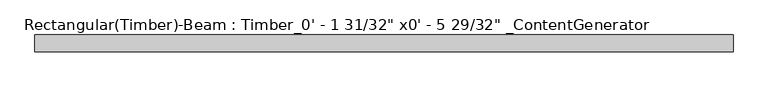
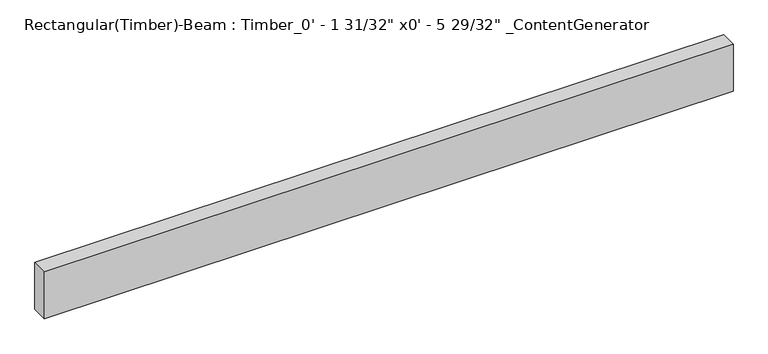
"""IFC4 building model written with IfcOpenShell, lengths in millimetres: beam geometry."""

from ifc_helpers import new_model, si_unit, frame, origin, place, context, project, spatial, polyline, outline, extrude, source, transform, mapped, element, save


def beam_0b2bfc08(model_context):
    return source(origin(), model_context, "Body", "SweptSolid", [
        extrude(outline(polyline([(1058.8625, 25.4), (1058.8625, -25.4), (-1058.8625, -25.4), (-1058.8625, 25.4), (1058.8625, 25.4)])), frame((0.0, 0.0, -76.2), z_axis=(0.0, 0.0, 1.0), x_axis=(1.0, 0.0, 0.0)), (0.0, 0.0, 1.0), 152.4),
    ])


if __name__ == "__main__":
    model = new_model("IFC4")
    model_context = context("Model", 3, world=origin())
    ifc_project = project(units=[si_unit("LENGTHUNIT", "METRE", prefix="MILLI")], contexts=[model_context])
    site = spatial("IfcSite", under=ifc_project)
    building = spatial("IfcBuilding", under=site)
    placement = place(None, origin())
    beam_shape = beam_0b2bfc08(model_context)
    element("IfcBeam", 1, ObjectType="Rectangular(Timber)-Beam : Timber_0' - 1 31/32\" x0' - 5 29/32\" _ContentGenerator", at=placement, inside=building, context=model_context, shape_type="MappedRepresentation", body=[
        mapped(beam_shape, transform((0.0, 0.0, 0.0), x_axis=(1.0, 0.0, 0.0), y_axis=(0.0, 1.0, 0.0), z_axis=(0.0, 0.0, 1.0))),
    ])
    save(model, "model.ifc")
